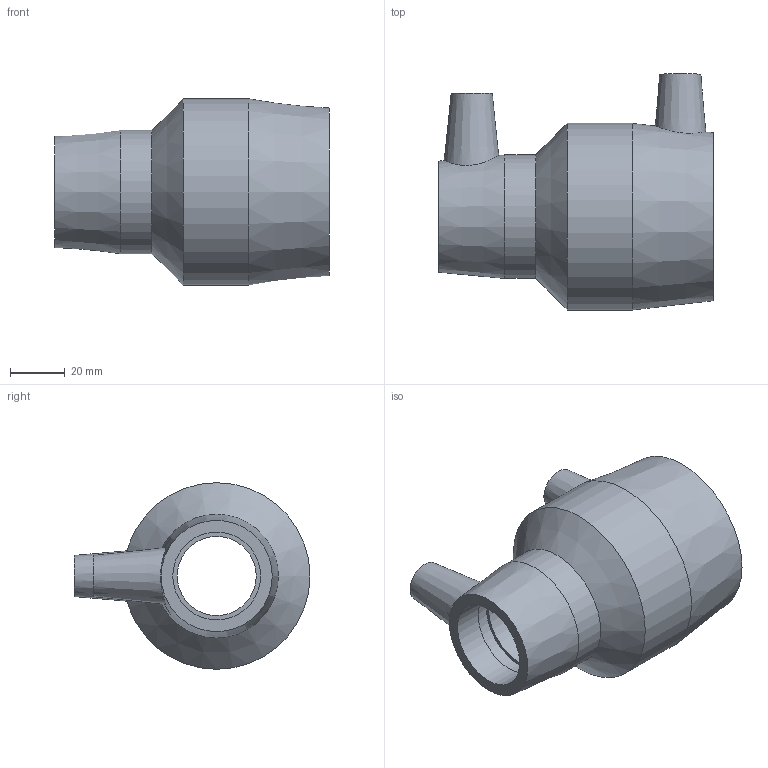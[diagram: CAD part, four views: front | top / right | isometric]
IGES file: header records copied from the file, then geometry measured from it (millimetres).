
Global section: file name: 491104050032.ipt; native system: Autodesk Inventor 2015; preprocessor: unknown; author: KIM; date: 20171106.093720; units: millimetre
Bounding box: 100 x 86 x 68 mm (x, y, z)
Volume: 130383.3 mm3; surface area: 37932 mm2
Topology: 1 solids, 1 shells, 31 faces, 72 edges, 51 vertices
Faces by surface type: plane 12, revolution 10, cone 5, cylinder 4
Full cylindrical faces by diameter (mm): 4 x2, 45 x1, 68 x1
